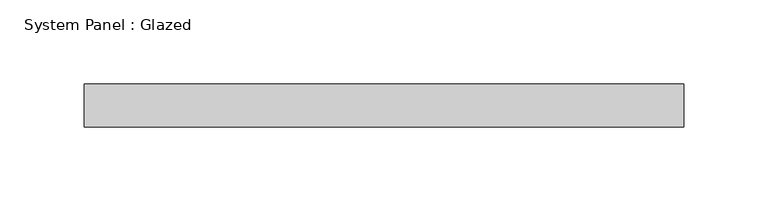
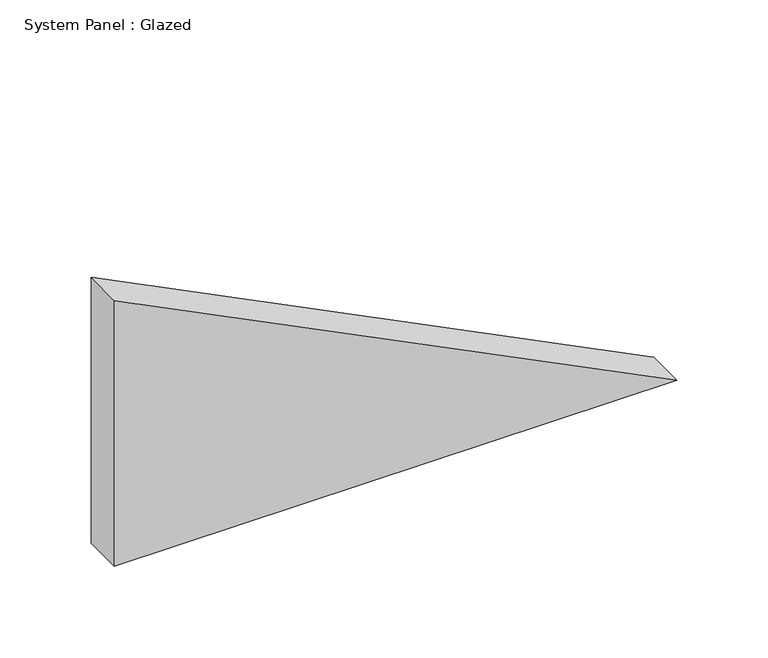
"""IFC4 building model written with IfcOpenShell, lengths in millimetres: plate geometry, System Panel : Glazed."""

import ifcopenshell
import ifcopenshell.guid

model = None  # the IFC model being written
_history = None  # IfcOwnerHistory: only IFC2X3 demands one
_inside = {}  # id of a spatial element -> (the spatial element, [elements in it])
_under = {}  # id of a project, library or spatial element -> (it, [spatial elements below it])
_declared = {}  # id of a project -> (the project, [libraries it declares])
_typed = {}  # id of a type object -> (the type object, [elements of that type])
_made_of = {}  # id of a material, layer set ... -> (it, [elements and type objects made of it])


def new_model(schema):
    """Start an empty IFC model of exactly this schema.

    Asked for "IFC4X3", IfcOpenShell would pick the latest addendum, in which some entities
    have other attributes; the version numbers below select the first issue.
    IFC2X3 requires an IfcOwnerHistory on every rooted entity: one is made here for all.
    """
    global model, _history
    if schema == "IFC4X3":
        model = ifcopenshell.file(schema_version=(4, 3, 0, 0))
    else:
        model = ifcopenshell.file(schema=schema)
    _inside.clear()
    _under.clear()
    _declared.clear()
    _typed.clear()
    _made_of.clear()
    _history = None
    if model.schema == "IFC2X3":
        org = make("IfcOrganization", Name="unknown")
        user = make(
            "IfcPersonAndOrganization",
            ThePerson=make("IfcPerson", FamilyName="unknown"),
            TheOrganization=org,
        )
        app = make(
            "IfcApplication",
            ApplicationDeveloper=org,
            Version="unknown",
            ApplicationFullName="unknown",
            ApplicationIdentifier="unknown",
        )
        _history = make(
            "IfcOwnerHistory",
            OwningUser=user,
            OwningApplication=app,
            ChangeAction="ADDED",
            CreationDate=0,
        )
    return model


def make(cls, **values):
    """One entity of the class cls with the attributes given. An attribute that is None is left unset."""
    return model.create_entity(
        cls, **{name: value for name, value in values.items() if value is not None}
    )


def rooted(cls, **values):
    """An entity with a GlobalId (a new one), such as an element, a storey or a relation."""
    return make(cls, GlobalId=ifcopenshell.guid.new(), OwnerHistory=_history, **values)


def si_unit(unit_type, name, prefix=None):
    """IfcSIUnit, for example si_unit("LENGTHUNIT", "METRE", prefix="MILLI")."""
    return make("IfcSIUnit", UnitType=unit_type, Prefix=prefix, Name=name)


def assignment(units):
    """IfcUnitAssignment: the units of a project."""
    return None if units is None else make("IfcUnitAssignment", Units=units)


def point(xyz):
    """IfcCartesianPoint."""
    return None if xyz is None else make("IfcCartesianPoint", Coordinates=xyz)


def direction(xyz):
    """IfcDirection."""
    return None if xyz is None else make("IfcDirection", DirectionRatios=xyz)


def frame(location, z_axis=None, x_axis=None):
    """IfcAxis2Placement3D, a coordinate frame: its origin and axes. An axis left out is left unset."""
    return make(
        "IfcAxis2Placement3D",
        Location=point(location),
        Axis=direction(z_axis),
        RefDirection=direction(x_axis),
    )


def origin():
    """The frame at (0, 0, 0) with its axes left unset."""
    return frame((0.0, 0.0, 0.0))


def place(relative_to, where):
    """IfcLocalPlacement: puts the frame where relative to a parent placement (None: the world)."""
    return make(
        "IfcLocalPlacement", PlacementRelTo=relative_to, RelativePlacement=where
    )


def context(
    kind, dimensions, precision=None, world=None, true_north=None, identifier=None
):
    """IfcGeometricRepresentationContext, for example the 3D "Model" context."""
    return make(
        "IfcGeometricRepresentationContext",
        ContextIdentifier=identifier,
        ContextType=kind,
        CoordinateSpaceDimension=dimensions,
        Precision=precision,
        WorldCoordinateSystem=world,
        TrueNorth=true_north,
    )


def project(units=None, contexts=None):
    """IfcProject with its units and contexts."""
    return rooted(
        "IfcProject",
        Name="project",
        RepresentationContexts=contexts,
        UnitsInContext=assignment(units),
    )


def spatial(cls, under=None, at=None, **own):
    """A site, building, storey or space (cls), placed at a placement, below another one or the project."""
    s = rooted(cls, ObjectPlacement=at, **own)
    if under is not None:
        _under.setdefault(under.id(), (under, []))[1].append(s)
    return s


def polyline(points):
    """IfcPolyline through the points."""
    return make("IfcPolyline", Points=[point(p) for p in points])


def outline(outer, holes=None, kind="AREA"):
    """IfcArbitraryClosedProfileDef: a profile drawn as a closed curve; with holes, ...WithVoids."""
    if holes is None:
        return make("IfcArbitraryClosedProfileDef", ProfileType=kind, OuterCurve=outer)
    return make(
        "IfcArbitraryProfileDefWithVoids",
        ProfileType=kind,
        OuterCurve=outer,
        InnerCurves=holes,
    )


def extrude(swept, where, along, depth):
    """IfcExtrudedAreaSolid: the profile swept, set in the frame where, extruded along a direction by depth."""
    return make(
        "IfcExtrudedAreaSolid",
        SweptArea=swept,
        Position=where,
        ExtrudedDirection=direction(along),
        Depth=depth,
    )


def shape(context_of_items, identifier, shape_type, items):
    """IfcShapeRepresentation: the items that make up one representation, for example the "Body"."""
    return make(
        "IfcShapeRepresentation",
        ContextOfItems=context_of_items,
        RepresentationIdentifier=identifier,
        RepresentationType=shape_type,
        Items=items,
    )


def source(mapping_origin, context_of_items, identifier, shape_type, items):
    """IfcRepresentationMap: a shape defined once, which mapped items show again and again."""
    return make(
        "IfcRepresentationMap",
        MappingOrigin=mapping_origin,
        MappedRepresentation=shape(context_of_items, identifier, shape_type, items),
    )


def transform(
    local_origin,
    x_axis=None,
    y_axis=None,
    z_axis=None,
    scale=None,
    scale2=None,
    scale3=None,
    uniform=True,
):
    """IfcCartesianTransformationOperator3D, or its non-uniform kind. x_axis, y_axis, z_axis: its Axis1, 2, 3."""
    if uniform:
        return make(
            "IfcCartesianTransformationOperator3D",
            Axis1=direction(x_axis),
            Axis2=direction(y_axis),
            LocalOrigin=point(local_origin),
            Scale=scale,
            Axis3=direction(z_axis),
        )
    return make(
        "IfcCartesianTransformationOperator3DnonUniform",
        Axis1=direction(x_axis),
        Axis2=direction(y_axis),
        LocalOrigin=point(local_origin),
        Scale=scale,
        Axis3=direction(z_axis),
        Scale2=scale2,
        Scale3=scale3,
    )


def mapped(mapping_source, mapping_target):
    """IfcMappedItem: shows the shape of a source again, moved by a transform."""
    return make(
        "IfcMappedItem", MappingSource=mapping_source, MappingTarget=mapping_target
    )


def made_of(thing, what):
    """Note that an element or type object is made of a material, layer set ...; save() writes the relation."""
    if what is not None:
        _made_of.setdefault(what.id(), (what, []))[1].append(thing)
    return thing


def element(
    cls,
    number,
    at=None,
    inside=None,
    cuts=None,
    type_object=None,
    material=None,
    context=None,
    identifier="Body",
    shape_type=None,
    held_by="IfcProductDefinitionShape",
    body=None,
    shapes=None,
    **own,
):
    """One element of the class cls, such as IfcWall. Its Tag is "e" and its number.

    at: its placement. inside: the storey or other place that contains it. cuts: it is an
    opening in that element (IfcRelVoidsElement). A single representation is given by context,
    identifier, shape_type and body (its items); several are given by shapes. held_by: the class
    of the entity that holds the representations. save() writes the other relations.
    """
    e = rooted(cls, Tag="e%d" % number, ObjectPlacement=at, **own)
    if body is not None:
        shapes = [shape(context, identifier, shape_type, body)]
    if shapes is not None:
        e.Representation = make(held_by, Representations=shapes)
    if inside is not None:
        _inside.setdefault(inside.id(), (inside, []))[1].append(e)
    if cuts is not None:
        rooted(
            "IfcRelVoidsElement", RelatingBuildingElement=cuts, RelatedOpeningElement=e
        )
    if type_object is not None:
        _typed.setdefault(type_object.id(), (type_object, []))[1].append(e)
    return made_of(e, material)


def aggregate(whole, parts):
    """IfcRelAggregates: a whole, such as a stair, and the parts it consists of."""
    return rooted("IfcRelAggregates", RelatingObject=whole, RelatedObjects=parts)


def save(model, path):
    """Write the relations noted so far, then the file.

    IfcRelAggregates (storeys below a building ...), IfcRelContainedInSpatialStructure (elements
    in a storey), IfcRelDefinesByType, IfcRelAssociatesMaterial and IfcRelDeclares: one each for
    every whole, place, type object, material and project.
    """
    for whole, parts in _under.values():
        aggregate(whole, parts)
    for where, things in _inside.values():
        rooted(
            "IfcRelContainedInSpatialStructure",
            RelatedElements=things,
            RelatingStructure=where,
        )
    for kind, things in _typed.values():
        rooted("IfcRelDefinesByType", RelatedObjects=things, RelatingType=kind)
    for what, things in _made_of.values():
        rooted("IfcRelAssociatesMaterial", RelatedObjects=things, RelatingMaterial=what)
    for by, libraries in _declared.values():
        rooted("IfcRelDeclares", RelatingContext=by, RelatedDefinitions=libraries)
    model.write(path)


def system_panel_glazed_996dcb0c(model_context):
    return source(origin(), model_context, "Body", "SweptSolid", [
        extrude(outline(polyline([(0.0, -177.7460429), (0.0, 177.7460429), (177.7460429, -177.7460429), (0.0, -177.7460429)])), frame((0.0, 19.05, 0.0), z_axis=(0.0, 1.0, 0.0), x_axis=(0.0, 0.0, 1.0)), (0.0, 0.0, 1.0), 25.4),
    ])


if __name__ == "__main__":
    model = new_model("IFC4")
    model_context = context("Model", 3, world=origin())
    ifc_project = project(units=[si_unit("LENGTHUNIT", "METRE", prefix="MILLI")], contexts=[model_context])
    site = spatial("IfcSite", under=ifc_project)
    building = spatial("IfcBuilding", under=site)
    placement = place(None, origin())
    system_panel_glazed_shape = system_panel_glazed_996dcb0c(model_context)
    element("IfcPlate", 1, ObjectType="System Panel : Glazed", at=placement, inside=building, context=model_context, shape_type="MappedRepresentation", body=[
        mapped(system_panel_glazed_shape, transform((0.0, 0.0, 0.0), x_axis=(1.0, 0.0, 0.0), y_axis=(0.0, 1.0, 0.0), z_axis=(0.0, 0.0, 1.0))),
    ])
    save(model, "model.ifc")
